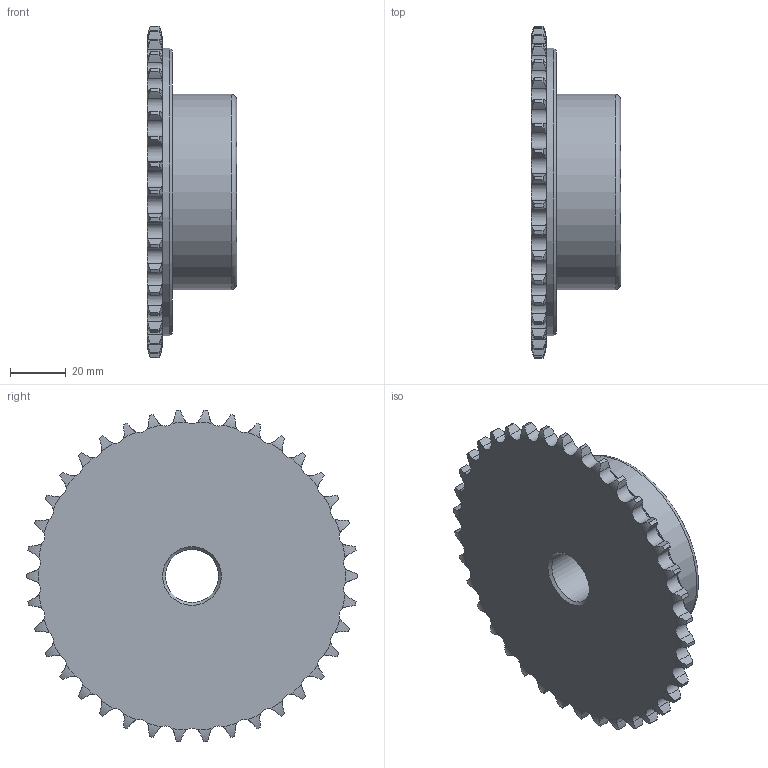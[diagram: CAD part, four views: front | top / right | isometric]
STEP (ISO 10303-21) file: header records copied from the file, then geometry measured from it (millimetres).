
FILE_DESCRIPTION(/* description */ (''),/* implementation_level */ '2;1');
FILE_NAME(/* name */ 'C:\Users\stagistacad\Desktop\12109038.stp',/* time_stamp */ '2018-06-20T16:34:38+02:00',/* author */ ('stagistacad'),/* organization */ (''),/* preprocessor_version */ 'ST-DEVELOPER v15.6',/* originating_system */ 'Autodesk Inventor 2015',/* authorisation */ '');
FILE_SCHEMA (('AUTOMOTIVE_DESIGN { 1 0 10303 214 3 1 1 }'));
Length unit declared in the file: millimetre
Products named in the file (1): 12109038
Bounding box: 32 x 118.9 x 118.6 mm (x, y, z)
Volume: 162514.2 mm3; surface area: 29820 mm2
Topology: 1 solids, 1 shells, 239 faces, 701 edges, 466 vertices
Faces by surface type: cylinder 155, torus 77, plane 4, cone 3
Full cylindrical faces by diameter (mm): 19 x1, 70 x1, 103 x1
Entity records: 8770 total; most frequent: CARTESIAN_POINT 2784, ORIENTED_EDGE 1388, DIRECTION 1108, EDGE_CURVE 694, AXIS2_PLACEMENT_3D 478, VERTEX_POINT 466, B_SPLINE_CURVE_WITH_KNOTS 304, EDGE_LOOP 250
